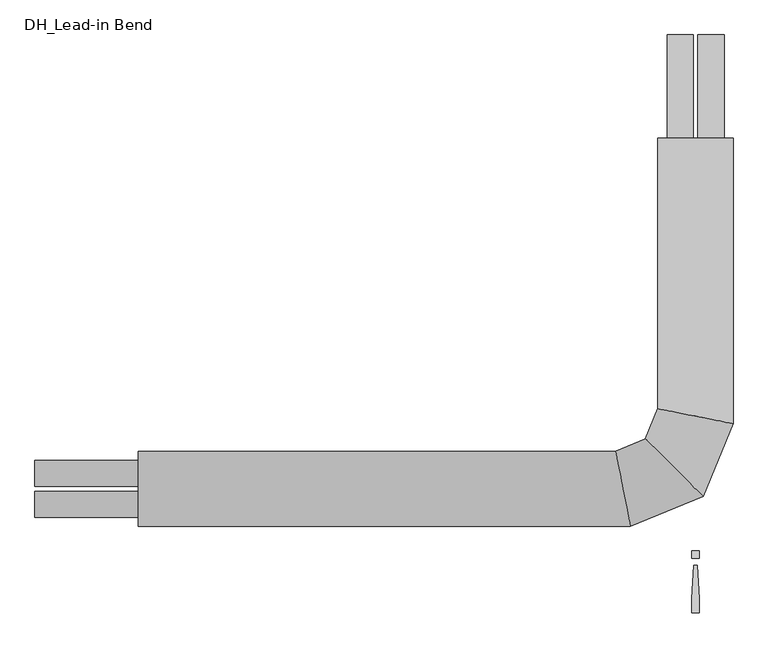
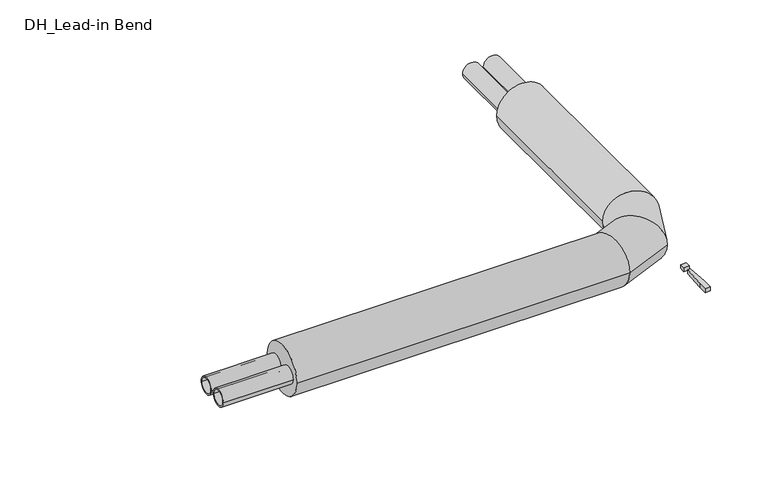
"""IFC4 building model written with IfcOpenShell, lengths in millimetres: pipe fitting geometry, DH_Lead-in Bend : RVT/RVX/RTX DUO 11 Heating Vertical."""

from ifc_helpers import new_model, si_unit, point, frame, frame_2d, origin, origin_with_axes, place, context, project, spatial, polyline, circle_curve, ellipse_curve, trimmed, segment, composite_curve, outline, extrude, source, transform, mapped, element, save
from ifc_brep_helpers import plane_surface, cylinder_surface, advanced_brep


def dh_lead_in_bend_31b992d6(model_context):
    return source(origin(), model_context, "Body", "SolidModel", [
        extrude(outline(composite_curve([segment(trimmed(circle_curve(frame_2d((-37.5, 0.0)), 31.5), [point((-6.0, 0.0))], [point((-69.0, 0.0))], False, "CARTESIAN"), True, "CONTINUOUS"), segment(trimmed(circle_curve(frame_2d((-37.5, 0.0)), 31.5), [point((-69.0, 0.0))], [point((-6.0, 0.0))], False, "CARTESIAN"), True, "CONTINUOUS")], self_intersect=False), holes=[composite_curve([segment(trimmed(circle_curve(frame_2d((-37.5, 0.0)), 25.7), [point((-11.8, 0.0))], [point((-63.2, 0.0))], True, "CARTESIAN"), True, "CONTINUOUS"), segment(trimmed(circle_curve(frame_2d((-37.5, 0.0)), 25.7), [point((-63.2, 0.0))], [point((-11.8, 0.0))], True, "CARTESIAN"), True, "CONTINUOUS")], self_intersect=False)]), frame((-1600.0, 0.0, 0.0), z_axis=(1.0, 0.0, 0.0), x_axis=(0.0, 1.0, 0.0)), (0.0, 0.0, 1.0), 250.0),
        extrude(outline(composite_curve([segment(trimmed(circle_curve(frame_2d((0.0, -37.5)), 31.5), [point((0.0, -6.0))], [point((0.0, -69.0))], False, "CARTESIAN"), True, "CONTINUOUS"), segment(trimmed(circle_curve(frame_2d((0.0, -37.5)), 31.5), [point((0.0, -69.0))], [point((0.0, -6.0))], False, "CARTESIAN"), True, "CONTINUOUS")], self_intersect=False), holes=[composite_curve([segment(trimmed(circle_curve(frame_2d((0.0, -37.5)), 25.7), [point((0.0, -11.8))], [point((0.0, -63.2))], True, "CARTESIAN"), True, "CONTINUOUS"), segment(trimmed(circle_curve(frame_2d((0.0, -37.5)), 25.7), [point((0.0, -63.2))], [point((0.0, -11.8))], True, "CARTESIAN"), True, "CONTINUOUS")], self_intersect=False)]), frame((0.0, 850.0, 0.0), z_axis=(0.0, 1.0, 0.0), x_axis=(0.0, 0.0, 1.0)), (0.0, 0.0, 1.0), 250.0),
        advanced_brep(
        [(-1350.0, -91.0, 0.0), (-1350.0, 91.0, 0.0), (-157.7989746, -91.0, 0.0), (-194.0010254, 91.0, 0.0), (91.0, 850.0, 0.0), (-91.0, 850.0, 0.0), (-91.0, 194.0010254, 0.0), (91.0, 157.7989746, 0.0), (18.1284675, -18.1284675, 0.0), (-121.1683019, 121.1683019, 0.0)],
        [
            (0, 1, circle_curve(frame((-1350.0, 0.0, 0.0), z_axis=(-1.0, 0.0, 0.0), x_axis=(0.0, 1.0, 0.0)), 91.0)),
            (1, 0, circle_curve(frame((-1350.0, 0.0, 0.0), z_axis=(-1.0, 0.0, 0.0), x_axis=(0.0, 1.0, 0.0)), 91.0)),
            (0, 2),
            (2, 3, ellipse_curve(frame((-175.9, 0.0, 0.0), z_axis=(-0.9807852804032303, -0.19509032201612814, 0.0), x_axis=(-0.19509032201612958, 0.9807852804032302, 0.0)), 92.7827954, 91.0)),
            (3, 1),
            (3, 2, ellipse_curve(frame((-175.9, 0.0, 0.0), z_axis=(-0.9807852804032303, -0.19509032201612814, 0.0), x_axis=(-0.19509032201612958, 0.9807852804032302, 0.0)), 92.7827954, 91.0)),
            (4, 5, circle_curve(frame((0.0, 850.0, 0.0), z_axis=(0.0, 1.0, 0.0), x_axis=(-1.0, 0.0, 0.0)), 91.0)),
            (5, 4, circle_curve(frame((0.0, 850.0, 0.0), z_axis=(0.0, 1.0, 0.0), x_axis=(-1.0, 0.0, 0.0)), 91.0)),
            (6, 7, ellipse_curve(frame((0.0, 175.9, 0.0), z_axis=(0.1950903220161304, 0.9807852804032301, 0.0), x_axis=(0.9807852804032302, -0.1950903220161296, 0.0)), 92.7827954, 91.0)),
            (7, 4),
            (5, 6),
            (7, 6, ellipse_curve(frame((0.0, 175.9, 0.0), z_axis=(0.1950903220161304, 0.9807852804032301, 0.0), x_axis=(0.9807852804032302, -0.1950903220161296, 0.0)), 92.7827954, 91.0)),
            (2, 8),
            (8, 9, ellipse_curve(frame((-51.5199172, 51.5199172, 0.0), z_axis=(-0.707106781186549, -0.7071067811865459, 0.0), x_axis=(-0.7071067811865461, 0.7071067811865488, 0.0)), 98.4976902, 91.0)),
            (9, 3),
            (9, 8, ellipse_curve(frame((-51.5199172, 51.5199172, 0.0), z_axis=(-0.707106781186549, -0.7071067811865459, 0.0), x_axis=(-0.7071067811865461, 0.7071067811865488, 0.0)), 98.4976902, 91.0)),
            (8, 7),
            (6, 9),
        ],
        [
            plane_surface(frame((-1350.0, 0.0, 0.0), z_axis=(-1.0, 0.0, 0.0), x_axis=(0.0, 0.0, 1.0))),
            cylinder_surface(frame((-1350.0, 0.0, 0.0), z_axis=(-1.0, 0.0, 0.0), x_axis=(0.0, 1.0, 0.0)), 91.0),
            plane_surface(frame((0.0, 850.0, 0.0), z_axis=(0.0, 1.0, 0.0), x_axis=(0.0, 0.0, 1.0))),
            cylinder_surface(frame((0.0, 175.9, 0.0), z_axis=(0.0, -1.0, 0.0), x_axis=(-1.0, 0.0, 0.0)), 91.0),
            cylinder_surface(frame((-175.9, 0.0, 0.0), z_axis=(-0.9238795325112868, -0.3826834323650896, 0.0), x_axis=(-0.3826834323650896, 0.9238795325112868, 0.0)), 91.0),
            cylinder_surface(frame((-51.5199172, 51.5199172, 0.0), z_axis=(-0.3826834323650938, -0.9238795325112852, 0.0), x_axis=(-0.9238795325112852, 0.3826834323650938, 0.0)), 91.0),
        ],
        [
            (0, [[1, 2]]),
            (1, [[-1, 3, 4, 5]]),
            (1, [[-2, -5, 6, -3]]),
            (2, [[7, 8]]),
            (3, [[9, 10, -8, 11]]),
            (3, [[12, -11, -7, -10]]),
            (4, [[-4, 13, 14, 15]]),
            (4, [[-6, -15, 16, -13]]),
            (5, [[-14, 17, -9, 18]]),
            (5, [[-16, -18, -12, -17]]),
        ],
    ),
        extrude(outline(composite_curve([segment(trimmed(circle_curve(frame_2d((37.5, 0.0)), 31.5), [point((6.0, 0.0))], [point((69.0, 0.0))], False, "CARTESIAN"), True, "CONTINUOUS"), segment(trimmed(circle_curve(frame_2d((37.5, 0.0)), 31.5), [point((69.0, 0.0))], [point((6.0, 0.0))], False, "CARTESIAN"), True, "CONTINUOUS")], self_intersect=False), holes=[composite_curve([segment(trimmed(circle_curve(frame_2d((37.5, 0.0)), 25.7), [point((11.8, 0.0))], [point((63.2, 0.0))], True, "CARTESIAN"), True, "CONTINUOUS"), segment(trimmed(circle_curve(frame_2d((37.5, 0.0)), 25.7), [point((63.2, 0.0))], [point((11.8, 0.0))], True, "CARTESIAN"), True, "CONTINUOUS")], self_intersect=False)]), frame((-1600.0, 0.0, 0.0), z_axis=(1.0, 0.0, 0.0), x_axis=(0.0, 1.0, 0.0)), (0.0, 0.0, 1.0), 250.0),
        extrude(outline(composite_curve([segment(trimmed(circle_curve(frame_2d((0.0, 37.5)), 31.5), [point((0.0, 6.0))], [point((0.0, 69.0))], False, "CARTESIAN"), True, "CONTINUOUS"), segment(trimmed(circle_curve(frame_2d((0.0, 37.5)), 31.5), [point((0.0, 69.0))], [point((0.0, 6.0))], False, "CARTESIAN"), True, "CONTINUOUS")], self_intersect=False), holes=[composite_curve([segment(trimmed(circle_curve(frame_2d((0.0, 37.5)), 25.7), [point((0.0, 11.8))], [point((0.0, 63.2))], True, "CARTESIAN"), True, "CONTINUOUS"), segment(trimmed(circle_curve(frame_2d((0.0, 37.5)), 25.7), [point((0.0, 63.2))], [point((0.0, 11.8))], True, "CARTESIAN"), True, "CONTINUOUS")], self_intersect=False)]), frame((0.0, 850.0, 0.0), z_axis=(0.0, 1.0, 0.0), x_axis=(0.0, 0.0, 1.0)), (0.0, 0.0, 1.0), 250.0),
        extrude(outline(polyline([(4.7088895, -185.3166715), (9.4177791, -266.6553807), (9.4177791, -300.6844652), (-9.4177791, -300.6844652), (-9.4177791, -266.6553807), (-4.7088895, -185.3166715), (4.7088895, -185.3166715)])), origin_with_axes(), (0.0, 0.0, 1.0), 15.0),
        extrude(outline(polyline([(9.4177791, -150.0), (9.4177791, -168.8355582), (-9.4177791, -168.8355582), (-9.4177791, -150.0), (9.4177791, -150.0)])), origin_with_axes(), (0.0, 0.0, 1.0), 15.0),
    ])


if __name__ == "__main__":
    model = new_model("IFC4")
    model_context = context("Model", 3, world=origin())
    ifc_project = project(units=[si_unit("LENGTHUNIT", "METRE", prefix="MILLI")], contexts=[model_context])
    site = spatial("IfcSite", under=ifc_project)
    building = spatial("IfcBuilding", under=site)
    placement = place(None, origin())
    dh_lead_in_bend_shape = dh_lead_in_bend_31b992d6(model_context)
    element("IfcPipeFitting", 1, ObjectType="DH_Lead-in Bend : RVT/RVX/RTX DUO 11 Heating Vertical", at=placement, inside=building, context=model_context, shape_type="MappedRepresentation", body=[
        mapped(dh_lead_in_bend_shape, transform((0.0, 0.0, 0.0), x_axis=(1.0, 0.0, 0.0), y_axis=(0.0, 1.0, 0.0), z_axis=(0.0, 0.0, 1.0))),
    ])
    save(model, "model.ifc")
